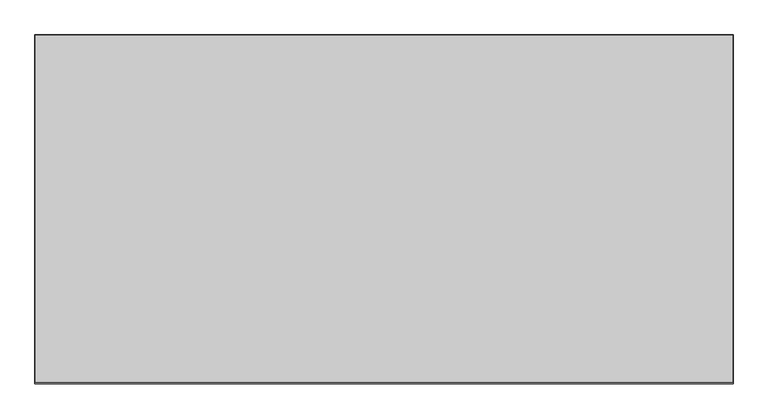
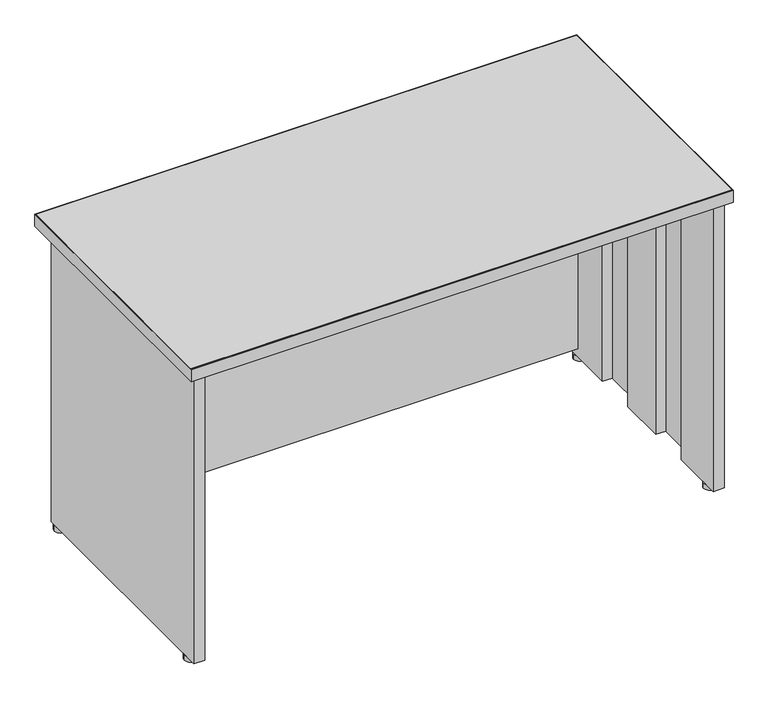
"""IFC4 building model written with IfcOpenShell, lengths in millimetres: furniture geometry, Steelcase - Kick Freestanding - Desk Shell - Full Height Modesty Panel : 24D x 48W."""

from ifc_helpers import new_model, si_unit, point, frame, frame_2d, origin, origin_with_axes, place, context, project, spatial, polyline, circle_curve, trimmed, segment, composite_curve, outline, extrude, source, transform, mapped, element, save


def furniture_00bfbcd0(model_context):
    return source(origin(), model_context, "Body", "SweptSolid", [
        extrude(outline(polyline([(677.0450425, -999.9647597), (677.0450425, -974.5647604), (1821.8738425, -974.5647604), (1821.8738425, -999.9647597), (677.0450425, -999.9647597)])), frame((0.0, 0.0, 31.242), z_axis=(0.0, 0.0, 1.0), x_axis=(1.0, 0.0, 0.0)), (0.0, 0.0, 1.0), 663.702),
        extrude(outline(composite_curve([segment(trimmed(circle_curve(frame_2d((665.1357759, -986.9367877)), 13.97), [point((651.1657759, -986.9367877))], [point((679.1057759, -986.9367877))], False, "CARTESIAN"), True, "CONTINUOUS"), segment(trimmed(circle_curve(frame_2d((665.1357759, -986.9367877)), 13.97), [point((679.1057759, -986.9367877))], [point((651.1657759, -986.9367877))], False, "CARTESIAN"), True, "CONTINUOUS")], self_intersect=False)), origin_with_axes(), (0.0, 0.0, 1.0), 12.446),
        extrude(outline(composite_curve([segment(trimmed(circle_curve(frame_2d((665.1357759, -1493.6441481)), 13.97), [point((651.1657759, -1493.6441481))], [point((679.1057759, -1493.6441481))], False, "CARTESIAN"), True, "CONTINUOUS"), segment(trimmed(circle_curve(frame_2d((665.1357759, -1493.6441481)), 13.97), [point((679.1057759, -1493.6441481))], [point((651.1657759, -1493.6441481))], False, "CARTESIAN"), True, "CONTINUOUS")], self_intersect=False)), origin_with_axes(), (0.0, 0.0, 1.0), 12.446),
        extrude(outline(polyline([(1821.8738425, -1096.0529604), (1821.8738425, -972.7867604), (1846.3594421, -972.7867604), (1846.3594421, -1528.538741), (1821.8738421, -1528.538741), (1821.8738421, -1404.2311348), (1844.3020425, -1404.2311348), (1844.3020425, -1304.5107682), (1821.8738421, -1304.5107682), (1821.8738421, -1195.7733647), (1844.3020425, -1195.7733647), (1844.3020425, -1096.0529604), (1821.8738425, -1096.0529604)])), frame((0.0, 0.0, 12.446), z_axis=(0.0, 0.0, 1.0), x_axis=(1.0, 0.0, 0.0)), (0.0, 0.0, 1.0), 682.498),
        extrude(outline(polyline([(677.0450425, -1096.0529604), (654.6168425, -1096.0529604), (654.6168425, -1195.7733647), (677.0450429, -1195.7733647), (677.0450429, -1304.5107682), (654.6168425, -1304.5107682), (654.6168425, -1404.2311348), (677.0450429, -1404.2311348), (677.0450429, -1528.538741), (652.5594429, -1528.538741), (652.5594429, -972.7867604), (677.0450425, -972.7867604), (677.0450425, -1096.0529604)])), frame((0.0, 0.0, 12.446), z_axis=(0.0, 0.0, 1.0), x_axis=(1.0, 0.0, 0.0)), (0.0, 0.0, 1.0), 682.498),
        extrude(outline(polyline([(1858.0688425, -932.6293604), (1858.0688425, -1538.2669215), (640.8500425, -1538.2669215), (640.8500425, -932.6293604), (1858.0688425, -932.6293604)])), frame((0.0, 0.0, 694.944), z_axis=(0.0, 0.0, 1.0), x_axis=(1.0, 0.0, 0.0)), (0.0, 0.0, 1.0), 28.956),
        extrude(outline(polyline([(1859.0594425, -931.6387604), (1859.0594425, -1541.2387604), (639.8594425, -1541.2387604), (639.8594425, -931.6387604), (1859.0594425, -931.6387604)]), holes=[polyline([(1858.0688425, -932.6293604), (640.8500425, -932.6293604), (640.8500425, -1538.2669215), (1858.0688425, -1538.2669215), (1858.0688425, -932.6293604)])]), frame((0.0, 0.0, 694.944), z_axis=(0.0, 0.0, 1.0), x_axis=(1.0, 0.0, 0.0)), (0.0, 0.0, 1.0), 28.956),
        extrude(outline(composite_curve([segment(trimmed(circle_curve(frame_2d((1833.7831091, -1493.6441481)), 13.97), [point((1819.8131091, -1493.6441481))], [point((1847.7531091, -1493.6441481))], False, "CARTESIAN"), True, "CONTINUOUS"), segment(trimmed(circle_curve(frame_2d((1833.7831091, -1493.6441481)), 13.97), [point((1847.7531091, -1493.6441481))], [point((1819.8131091, -1493.6441481))], False, "CARTESIAN"), True, "CONTINUOUS")], self_intersect=False)), origin_with_axes(), (0.0, 0.0, 1.0), 12.446),
        extrude(outline(composite_curve([segment(trimmed(circle_curve(frame_2d((1833.7831091, -986.9367877)), 13.97), [point((1847.7531091, -986.9367877))], [point((1819.8131091, -986.9367877))], False, "CARTESIAN"), True, "CONTINUOUS"), segment(trimmed(circle_curve(frame_2d((1833.7831091, -986.9367877)), 13.97), [point((1819.8131091, -986.9367877))], [point((1847.7531091, -986.9367877))], False, "CARTESIAN"), True, "CONTINUOUS")], self_intersect=False)), origin_with_axes(), (0.0, 0.0, 1.0), 12.446),
    ])


if __name__ == "__main__":
    model = new_model("IFC4")
    model_context = context("Model", 3, world=origin())
    ifc_project = project(units=[si_unit("LENGTHUNIT", "METRE", prefix="MILLI")], contexts=[model_context])
    site = spatial("IfcSite", under=ifc_project)
    building = spatial("IfcBuilding", under=site)
    placement = place(None, origin())
    furniture_shape = furniture_00bfbcd0(model_context)
    element("IfcFurniture", 1, ObjectType="Steelcase - Kick Freestanding - Desk Shell - Full Height Modesty Panel : 24D x 48W", at=placement, inside=building, context=model_context, shape_type="MappedRepresentation", body=[
        mapped(furniture_shape, transform((0.0, 0.0, 0.0), x_axis=(1.0, 0.0, 0.0), y_axis=(0.0, 1.0, 0.0), z_axis=(0.0, 0.0, 1.0))),
    ])
    save(model, "model.ifc")
